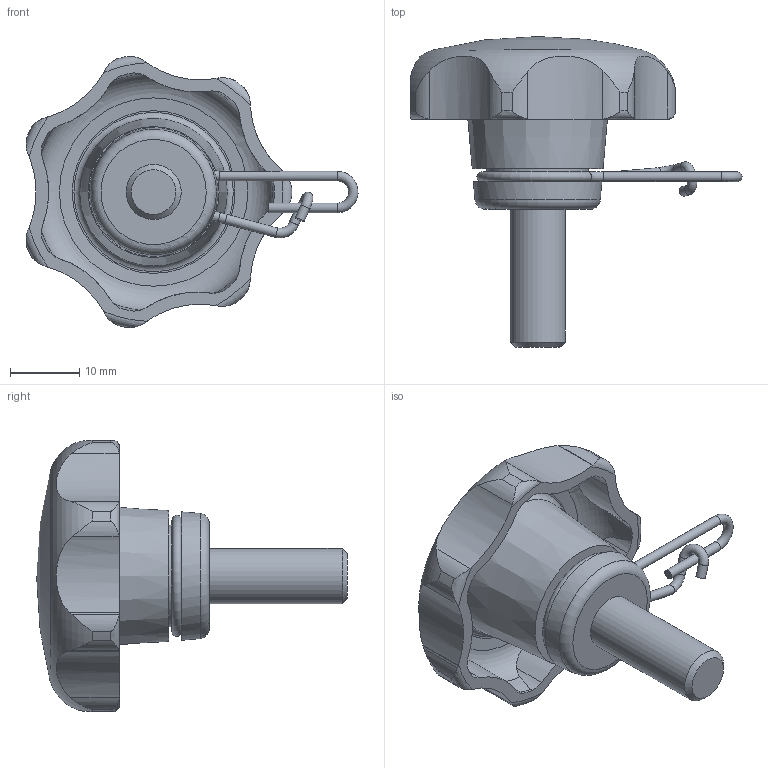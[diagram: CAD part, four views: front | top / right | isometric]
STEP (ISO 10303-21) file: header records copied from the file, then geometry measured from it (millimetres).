
FILE_DESCRIPTION( ( 'STEP AP203' ), '1' );
FILE_NAME( 'C:/Temp/Ganter_Step_05_03_2020/data/2_2/gn_6336_13/gn_6336_13_2/Star knob GN 6336.13-40-M8-20-A.stp', '2020-03-05T12:11:09', ( 'License CC BY-ND 4.0' ), ( 'CADENAS' ), ' ', 'PARTsolutions', ' ' );
FILE_SCHEMA( ( 'CONFIG_CONTROL_DESIGN' ) );
Length unit declared in the file: millimetre
Products named in the file (1): _Star knob GN 6336.13-40-M8-20-A
Bounding box: 48.07 x 45 x 39.31 mm (x, y, z)
Volume: 12238.4 mm3; surface area: 6060 mm2
Topology: 1 solids, 1 shells, 114 faces, 310 edges, 202 vertices
Faces by surface type: cylinder 73, torus 18, cone 11, plane 11, sphere 1
Full cylindrical faces by diameter (mm): 1.4 x5, 8 x1, 14.7 x1
Entity records: 4226 total; most frequent: CARTESIAN_POINT 1527, ORIENTED_EDGE 564, DIRECTION 516, EDGE_CURVE 282, AXIS2_PLACEMENT_3D 222, VERTEX_POINT 199, EDGE_LOOP 140, FACE_OUTER_BOUND 131
